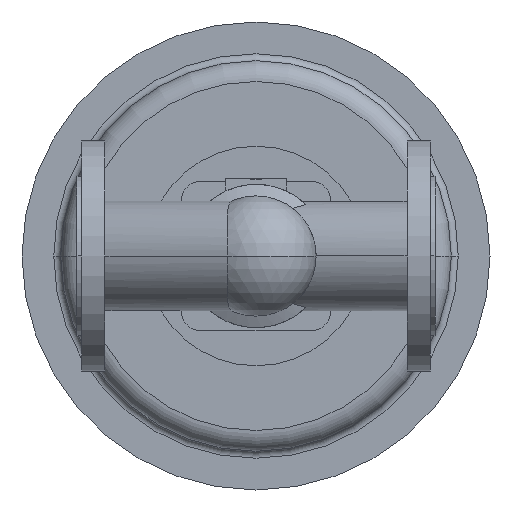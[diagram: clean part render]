
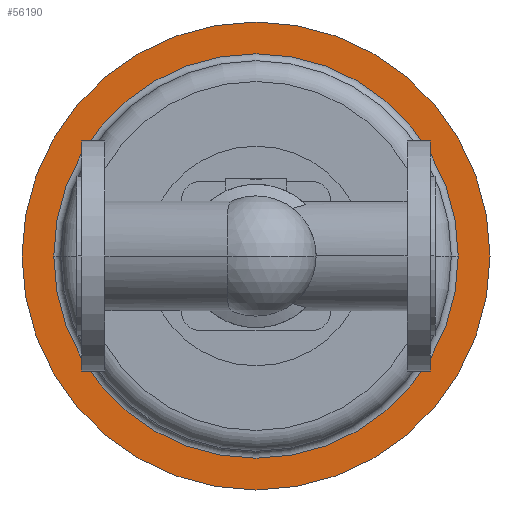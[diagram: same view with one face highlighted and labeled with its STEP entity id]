
A CAD part, front view. The second image highlights one B-rep face of the part: STEP entity #56190.
In plain terms, the highlighted planar face has unit normal (0, -1, 0).
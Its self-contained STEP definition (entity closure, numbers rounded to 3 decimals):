
#55690=CARTESIAN_POINT('',(-20.,789.7,0.));
#55700=VERTEX_POINT('',#55690);
#55730=CARTESIAN_POINT('',(155.,789.7,0.));
#55740=DIRECTION('',(0.,1.,0.));
#55750=DIRECTION('',(1.,0.,0.));
#55760=AXIS2_PLACEMENT_3D('',#55730,#55740,#55750);
#55770=CIRCLE('',#55760,175.);
#55780=CARTESIAN_POINT('',(330.,789.7,0.));
#55790=VERTEX_POINT('',#55780);
#55800=EDGE_CURVE('',#55700,#55790,#55770,.T.);
#55940=CARTESIAN_POINT('',(343.75,789.7,0.));
#55950=DIRECTION('',(0.,-1.,0.));
#55960=DIRECTION('',(-1.,0.,0.));
#55970=AXIS2_PLACEMENT_3D('',#55940,#55950,#55960);
#55980=PLANE('',#55970);
#55990=CARTESIAN_POINT('',(155.,789.7,0.));
#56000=DIRECTION('',(0.,1.,0.));
#56010=DIRECTION('',(1.,0.,0.));
#56020=AXIS2_PLACEMENT_3D('',#55990,#56000,#56010);
#56030=CIRCLE('',#56020,202.5);
#56040=CARTESIAN_POINT('',(-47.5,789.7,0.));
#56050=VERTEX_POINT('',#56040);
#56060=CARTESIAN_POINT('',(357.5,789.7,0.));
#56070=VERTEX_POINT('',#56060);
#56080=EDGE_CURVE('',#56050,#56070,#56030,.T.);
#56090=ORIENTED_EDGE('',*,*,#56080,.F.);
#56100=EDGE_CURVE('',#56070,#56050,#56030,.T.);
#56110=ORIENTED_EDGE('',*,*,#56100,.F.);
#56120=EDGE_LOOP('',(#56110,#56090));
#56130=FACE_OUTER_BOUND('',#56120,.T.);
#56140=EDGE_CURVE('',#55790,#55700,#55770,.T.);
#56150=ORIENTED_EDGE('',*,*,#56140,.T.);
#56160=ORIENTED_EDGE('',*,*,#55800,.T.);
#56170=EDGE_LOOP('',(#56160,#56150));
#56180=FACE_BOUND('',#56170,.T.);
#56190=ADVANCED_FACE('',(#56130,#56180),#55980,.T.);
